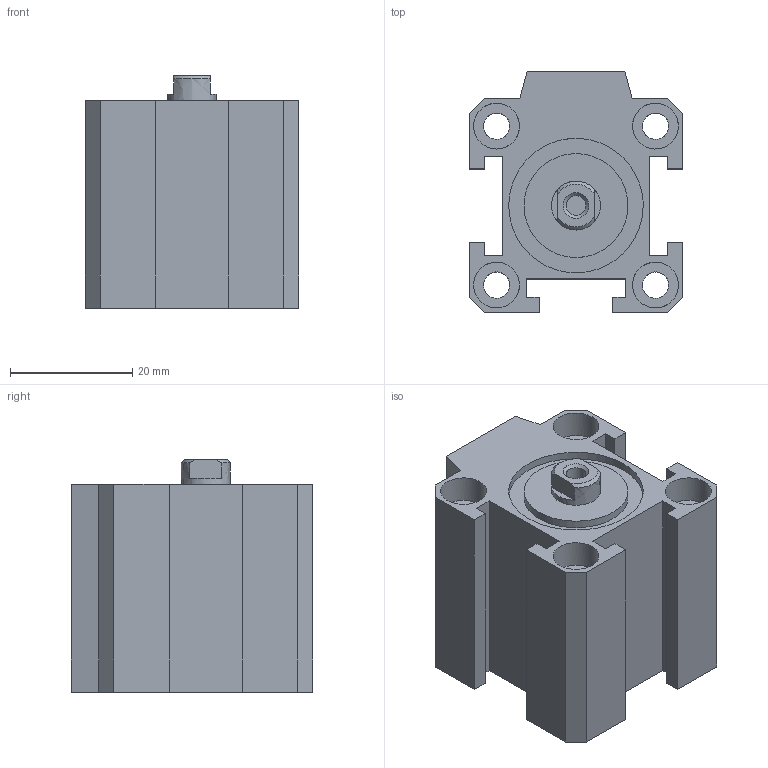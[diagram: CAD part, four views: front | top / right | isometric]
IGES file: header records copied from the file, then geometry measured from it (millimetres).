
Global section: file name: 1512_20_0005; native system: Autodesk Inventor 2014; preprocessor: unknown; author: A. Manieri; date: 20160907.104855; units: millimetre
Bounding box: 35 x 39.5 x 38 mm (x, y, z)
Volume: 30065.8 mm3; surface area: 15502.7 mm2
Topology: 2 solids, 2 shells, 90 faces, 231 edges, 163 vertices
Faces by surface type: bspline 90
